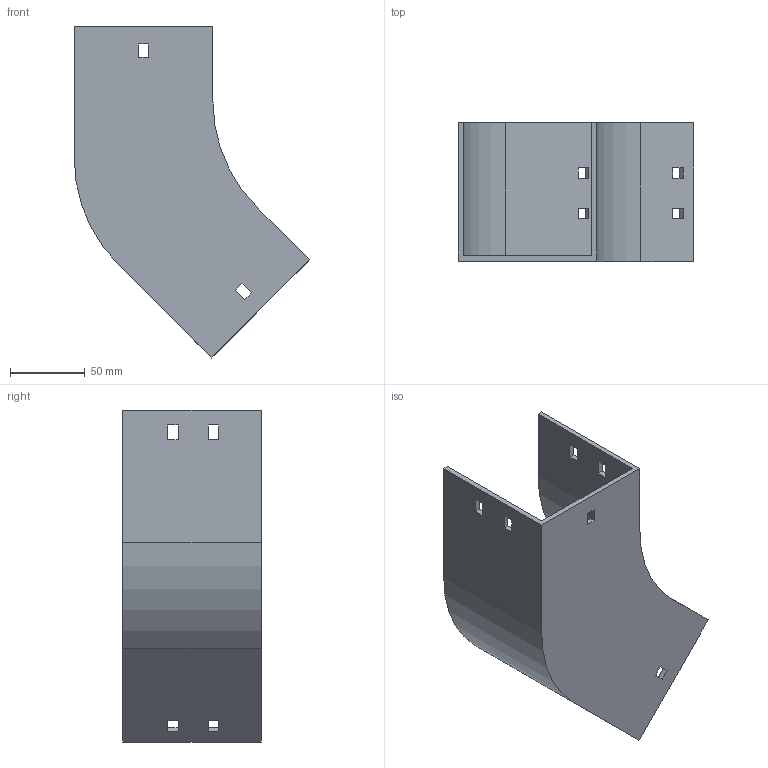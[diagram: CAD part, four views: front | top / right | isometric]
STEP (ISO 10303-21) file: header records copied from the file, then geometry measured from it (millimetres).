
FILE_DESCRIPTION (( 'STEP AP214' ), '1' );
FILE_NAME ('11B1I092.step', '2025-02-21T09:38:59', ( '' ), ( '' ), 'SwSTEP 2.0', 'SolidWorks 2023', '' );
FILE_SCHEMA (( 'AUTOMOTIVE_DESIGN' ));
Length unit declared in the file: millimetre
Products named in the file (1): 11B1I092
Bounding box: 157.14 x 92.5 x 221.47 mm (x, y, z)
Volume: 204330.6 mm3; surface area: 121340.8 mm2
Topology: 1 solids, 1 shells, 58 faces, 168 edges, 112 vertices
Faces by surface type: plane 54, cylinder 4
Entity records: 1943 total; most frequent: CARTESIAN_POINT 339, ORIENTED_EDGE 336, DIRECTION 294, EDGE_CURVE 168, LINE 160, VECTOR 160, VERTEX_POINT 112, EDGE_LOOP 78
